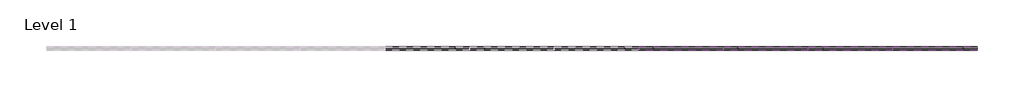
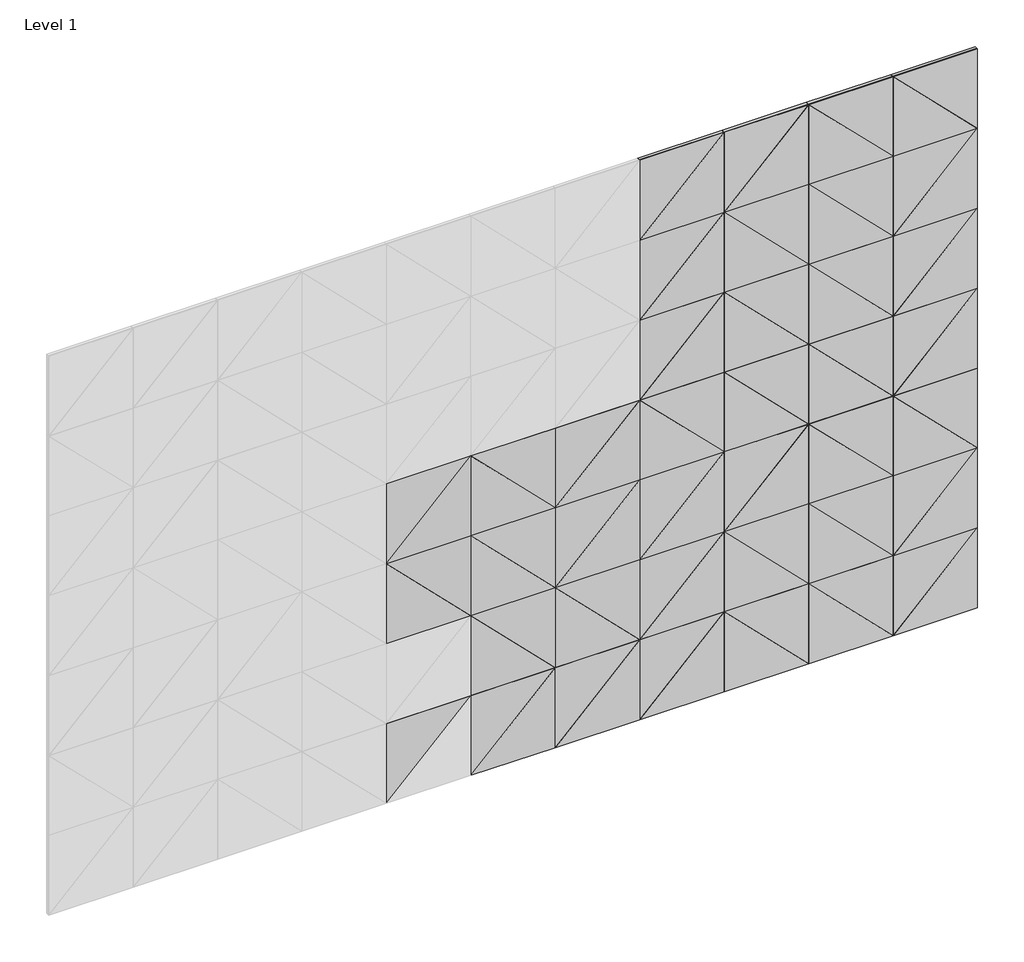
# One storey, part 2 of 2: 77 proxies.
"""IFC4 building model written with IfcOpenShell, lengths in millimetres."""

from ifc_helpers import new_model, si_unit, origin, place, context, project, spatial, transform, mapped, element, save
from components import triangle_90_block_a3482206

model = new_model("IFC4")

# Units and contexts
model_context = context("Model", 3, world=origin())
ifc_project = project(units=[si_unit("LENGTHUNIT", "METRE", prefix="MILLI")], contexts=[model_context])

# Site, building, storey
site = spatial("IfcSite", under=ifc_project)
building = spatial("IfcBuilding", under=site)
storey = spatial("IfcBuildingStorey", under=building, Name="Level 1", Elevation=0.0)

# Proxies
placement = place(None, origin())
triangle_90_block_shape = triangle_90_block_a3482206(model_context)
element("IfcBuildingElementProxy", 1, Name="FilzFelt_Triangle_90_Block : Triangle 90 Block", ObjectType="FilzFelt_Triangle_90_Block : Triangle 90 Block", at=placement, inside=storey, context=model_context, shape_type="MappedRepresentation", body=[
    mapped(triangle_90_block_shape, transform((40163.2097905, -10378.7647205, 2014.1), x_axis=(0.0, 0.0, -1.0), y_axis=(1.0, 0.0, 0.0), z_axis=(0.0, -1.0, 0.0))),
])
element("IfcBuildingElementProxy", 2, Name="FilzFelt_Triangle_90_Block : Triangle 90 Block", ObjectType="FilzFelt_Triangle_90_Block : Triangle 90 Block", at=placement, inside=storey, context=model_context, shape_type="MappedRepresentation", body=[
    mapped(triangle_90_block_shape, transform((40773.2097905, -10378.7647205, 2014.1), x_axis=(1.0, 0.0, 0.0), y_axis=(0.0, 0.0, 1.0), z_axis=(0.0, -1.0, 0.0))),
])
element("IfcBuildingElementProxy", 3, Name="FilzFelt_Triangle_90_Block : Triangle 90 Block", ObjectType="FilzFelt_Triangle_90_Block : Triangle 90 Block", at=placement, inside=storey, context=model_context, shape_type="MappedRepresentation", body=[
    mapped(triangle_90_block_shape, transform((41078.2097905, -10378.7647205, 2014.1), x_axis=(-1.0, 0.0, 0.0), y_axis=(0.0, 0.0, -1.0), z_axis=(0.0, -1.0, 0.0))),
])
element("IfcBuildingElementProxy", 4, Name="FilzFelt_Triangle_90_Block : Triangle 90 Block", ObjectType="FilzFelt_Triangle_90_Block : Triangle 90 Block", at=placement, inside=storey, context=model_context, shape_type="MappedRepresentation", body=[
    mapped(triangle_90_block_shape, transform((40468.2097905, -10378.7647205, 2014.1), x_axis=(0.0, 0.0, 1.0), y_axis=(-1.0, 0.0, 0.0), z_axis=(0.0, -1.0, 0.0))),
])
element("IfcBuildingElementProxy", 5, Name="FilzFelt_Triangle_90_Block : Triangle 90 Block", ObjectType="FilzFelt_Triangle_90_Block : Triangle 90 Block", at=placement, inside=storey, context=model_context, shape_type="MappedRepresentation", body=[
    mapped(triangle_90_block_shape, transform((40163.2097905, -10378.7647205, 1709.1), x_axis=(0.0, 0.0, -1.0), y_axis=(1.0, 0.0, 0.0), z_axis=(0.0, -1.0, 0.0))),
])
element("IfcBuildingElementProxy", 6, Name="FilzFelt_Triangle_90_Block : Triangle 90 Block", ObjectType="FilzFelt_Triangle_90_Block : Triangle 90 Block", at=placement, inside=storey, context=model_context, shape_type="MappedRepresentation", body=[
    mapped(triangle_90_block_shape, transform((40468.2097905, -10378.7647205, 1709.1), x_axis=(-1.0, 0.0, 0.0), y_axis=(0.0, 0.0, -1.0), z_axis=(0.0, -1.0, 0.0))),
])
element("IfcBuildingElementProxy", 7, Name="FilzFelt_Triangle_90_Block : Triangle 90 Block", ObjectType="FilzFelt_Triangle_90_Block : Triangle 90 Block", at=placement, inside=storey, context=model_context, shape_type="MappedRepresentation", body=[
    mapped(triangle_90_block_shape, transform((40773.2097905, -10378.7647205, 1709.1), x_axis=(1.0, 0.0, 0.0), y_axis=(0.0, 0.0, 1.0), z_axis=(0.0, -1.0, 0.0))),
])
element("IfcBuildingElementProxy", 8, Name="FilzFelt_Triangle_90_Block : Triangle 90 Block", ObjectType="FilzFelt_Triangle_90_Block : Triangle 90 Block", at=placement, inside=storey, context=model_context, shape_type="MappedRepresentation", body=[
    mapped(triangle_90_block_shape, transform((41078.2097905, -10378.7647205, 1709.1), x_axis=(0.0, 0.0, -1.0), y_axis=(1.0, 0.0, 0.0), z_axis=(0.0, -1.0, 0.0))),
])
element("IfcBuildingElementProxy", 9, Name="FilzFelt_Triangle_90_Block : Triangle 90 Block", ObjectType="FilzFelt_Triangle_90_Block : Triangle 90 Block", at=placement, inside=storey, context=model_context, shape_type="MappedRepresentation", body=[
    mapped(triangle_90_block_shape, transform((40163.2097905, -10378.7647205, 1404.1), x_axis=(0.0, 0.0, 1.0), y_axis=(-1.0, 0.0, 0.0), z_axis=(0.0, -1.0, 0.0))),
])
element("IfcBuildingElementProxy", 10, Name="FilzFelt_Triangle_90_Block : Triangle 90 Block", ObjectType="FilzFelt_Triangle_90_Block : Triangle 90 Block", at=placement, inside=storey, context=model_context, shape_type="MappedRepresentation", body=[
    mapped(triangle_90_block_shape, transform((40468.2097905, -10378.7647205, 1404.1), x_axis=(-1.0, 0.0, 0.0), y_axis=(0.0, 0.0, -1.0), z_axis=(0.0, -1.0, 0.0))),
])
element("IfcBuildingElementProxy", 11, Name="FilzFelt_Triangle_90_Block : Triangle 90 Block", ObjectType="FilzFelt_Triangle_90_Block : Triangle 90 Block", at=placement, inside=storey, context=model_context, shape_type="MappedRepresentation", body=[
    mapped(triangle_90_block_shape, transform((40773.2097905, -10378.7647205, 1404.1), x_axis=(-1.0, 0.0, 0.0), y_axis=(0.0, 0.0, -1.0), z_axis=(0.0, -1.0, 0.0))),
])
element("IfcBuildingElementProxy", 12, Name="FilzFelt_Triangle_90_Block : Triangle 90 Block", ObjectType="FilzFelt_Triangle_90_Block : Triangle 90 Block", at=placement, inside=storey, context=model_context, shape_type="MappedRepresentation", body=[
    mapped(triangle_90_block_shape, transform((41078.2097905, -10378.7647205, 1404.1), x_axis=(0.0, 0.0, 1.0), y_axis=(-1.0, 0.0, 0.0), z_axis=(0.0, -1.0, 0.0))),
])
element("IfcBuildingElementProxy", 13, Name="FilzFelt_Triangle_90_Block : Triangle 90 Block", ObjectType="FilzFelt_Triangle_90_Block : Triangle 90 Block", at=placement, inside=storey, context=model_context, shape_type="MappedRepresentation", body=[
    mapped(triangle_90_block_shape, transform((41078.2097905, -10378.7647205, 1099.1), x_axis=(0.0, 0.0, 1.0), y_axis=(-1.0, 0.0, 0.0), z_axis=(0.0, -1.0, 0.0))),
])
element("IfcBuildingElementProxy", 14, Name="FilzFelt_Triangle_90_Block : Triangle 90 Block", ObjectType="FilzFelt_Triangle_90_Block : Triangle 90 Block", at=placement, inside=storey, context=model_context, shape_type="MappedRepresentation", body=[
    mapped(triangle_90_block_shape, transform((41078.2097905, -10378.7647205, 794.1), x_axis=(-1.0, 0.0, 0.0), y_axis=(0.0, 0.0, -1.0), z_axis=(0.0, -1.0, 0.0))),
])
element("IfcBuildingElementProxy", 15, Name="FilzFelt_Triangle_90_Block : Triangle 90 Block", ObjectType="FilzFelt_Triangle_90_Block : Triangle 90 Block", at=placement, inside=storey, context=model_context, shape_type="MappedRepresentation", body=[
    mapped(triangle_90_block_shape, transform((41078.2097905, -10378.7647205, 489.1), x_axis=(0.0, 0.0, -1.0), y_axis=(1.0, 0.0, 0.0), z_axis=(0.0, -1.0, 0.0))),
])
element("IfcBuildingElementProxy", 16, Name="FilzFelt_Triangle_90_Block : Triangle 90 Block", ObjectType="FilzFelt_Triangle_90_Block : Triangle 90 Block", at=placement, inside=storey, context=model_context, shape_type="MappedRepresentation", body=[
    mapped(triangle_90_block_shape, transform((41078.2097905, -10378.7647205, 184.1), x_axis=(0.0, 0.0, 1.0), y_axis=(-1.0, 0.0, 0.0), z_axis=(0.0, -1.0, 0.0))),
])
element("IfcBuildingElementProxy", 17, Name="FilzFelt_Triangle_90_Block : Triangle 90 Block", ObjectType="FilzFelt_Triangle_90_Block : Triangle 90 Block", at=placement, inside=storey, context=model_context, shape_type="MappedRepresentation", body=[
    mapped(triangle_90_block_shape, transform((40773.2097905, -10378.7647205, 184.1), x_axis=(-1.0, 0.0, 0.0), y_axis=(0.0, 0.0, -1.0), z_axis=(0.0, -1.0, 0.0))),
])
element("IfcBuildingElementProxy", 18, Name="FilzFelt_Triangle_90_Block : Triangle 90 Block", ObjectType="FilzFelt_Triangle_90_Block : Triangle 90 Block", at=placement, inside=storey, context=model_context, shape_type="MappedRepresentation", body=[
    mapped(triangle_90_block_shape, transform((40773.2097905, -10378.7647205, 489.1), x_axis=(1.0, 0.0, 0.0), y_axis=(0.0, 0.0, 1.0), z_axis=(0.0, -1.0, 0.0))),
])
element("IfcBuildingElementProxy", 19, Name="FilzFelt_Triangle_90_Block : Triangle 90 Block", ObjectType="FilzFelt_Triangle_90_Block : Triangle 90 Block", at=placement, inside=storey, context=model_context, shape_type="MappedRepresentation", body=[
    mapped(triangle_90_block_shape, transform((40773.2097905, -10378.7647205, 794.1), x_axis=(1.0, 0.0, 0.0), y_axis=(0.0, 0.0, 1.0), z_axis=(0.0, -1.0, 0.0))),
])
element("IfcBuildingElementProxy", 20, Name="FilzFelt_Triangle_90_Block : Triangle 90 Block", ObjectType="FilzFelt_Triangle_90_Block : Triangle 90 Block", at=placement, inside=storey, context=model_context, shape_type="MappedRepresentation", body=[
    mapped(triangle_90_block_shape, transform((40773.2097905, -10378.7647205, 1099.1), x_axis=(-1.0, 0.0, 0.0), y_axis=(0.0, 0.0, -1.0), z_axis=(0.0, -1.0, 0.0))),
])
element("IfcBuildingElementProxy", 21, Name="FilzFelt_Triangle_90_Block : Triangle 90 Block", ObjectType="FilzFelt_Triangle_90_Block : Triangle 90 Block", at=placement, inside=storey, context=model_context, shape_type="MappedRepresentation", body=[
    mapped(triangle_90_block_shape, transform((40468.2097905, -10378.7647205, 184.1), x_axis=(-1.0, 0.0, 0.0), y_axis=(0.0, 0.0, -1.0), z_axis=(0.0, -1.0, 0.0))),
])
element("IfcBuildingElementProxy", 22, Name="FilzFelt_Triangle_90_Block : Triangle 90 Block", ObjectType="FilzFelt_Triangle_90_Block : Triangle 90 Block", at=placement, inside=storey, context=model_context, shape_type="MappedRepresentation", body=[
    mapped(triangle_90_block_shape, transform((40468.2097905, -10378.7647205, 489.1), x_axis=(-1.0, 0.0, 0.0), y_axis=(0.0, 0.0, -1.0), z_axis=(0.0, -1.0, 0.0))),
])
element("IfcBuildingElementProxy", 23, Name="FilzFelt_Triangle_90_Block : Triangle 90 Block", ObjectType="FilzFelt_Triangle_90_Block : Triangle 90 Block", at=placement, inside=storey, context=model_context, shape_type="MappedRepresentation", body=[
    mapped(triangle_90_block_shape, transform((40468.2097905, -10378.7647205, 794.1), x_axis=(0.0, 0.0, 1.0), y_axis=(-1.0, 0.0, 0.0), z_axis=(0.0, -1.0, 0.0))),
])
element("IfcBuildingElementProxy", 24, Name="FilzFelt_Triangle_90_Block : Triangle 90 Block", ObjectType="FilzFelt_Triangle_90_Block : Triangle 90 Block", at=placement, inside=storey, context=model_context, shape_type="MappedRepresentation", body=[
    mapped(triangle_90_block_shape, transform((40468.2097905, -10378.7647205, 1099.1), x_axis=(-1.0, 0.0, 0.0), y_axis=(0.0, 0.0, -1.0), z_axis=(0.0, -1.0, 0.0))),
])
element("IfcBuildingElementProxy", 25, Name="FilzFelt_Triangle_90_Block : Triangle 90 Block", ObjectType="FilzFelt_Triangle_90_Block : Triangle 90 Block", at=placement, inside=storey, context=model_context, shape_type="MappedRepresentation", body=[
    mapped(triangle_90_block_shape, transform((40163.2097905, -10378.7647205, 1099.1), x_axis=(1.0, 0.0, 0.0), y_axis=(0.0, 0.0, 1.0), z_axis=(0.0, -1.0, 0.0))),
])
element("IfcBuildingElementProxy", 26, Name="FilzFelt_Triangle_90_Block : Triangle 90 Block", ObjectType="FilzFelt_Triangle_90_Block : Triangle 90 Block", at=placement, inside=storey, context=model_context, shape_type="MappedRepresentation", body=[
    mapped(triangle_90_block_shape, transform((40163.2097905, -10378.7647205, 794.1), x_axis=(0.0, 0.0, -1.0), y_axis=(1.0, 0.0, 0.0), z_axis=(0.0, -1.0, 0.0))),
])
element("IfcBuildingElementProxy", 27, Name="FilzFelt_Triangle_90_Block : Triangle 90 Block", ObjectType="FilzFelt_Triangle_90_Block : Triangle 90 Block", at=placement, inside=storey, context=model_context, shape_type="MappedRepresentation", body=[
    mapped(triangle_90_block_shape, transform((40163.2097905, -10378.7647205, 489.1), x_axis=(0.0, 0.0, -1.0), y_axis=(1.0, 0.0, 0.0), z_axis=(0.0, -1.0, 0.0))),
])
element("IfcBuildingElementProxy", 28, Name="FilzFelt_Triangle_90_Block : Triangle 90 Block", ObjectType="FilzFelt_Triangle_90_Block : Triangle 90 Block", at=placement, inside=storey, context=model_context, shape_type="MappedRepresentation", body=[
    mapped(triangle_90_block_shape, transform((40163.2097905, -10378.7647205, 184.1), x_axis=(0.0, 0.0, 1.0), y_axis=(-1.0, 0.0, 0.0), z_axis=(0.0, -1.0, 0.0))),
])
element("IfcBuildingElementProxy", 29, Name="FilzFelt_Triangle_90_Block : Triangle 90 Block", ObjectType="FilzFelt_Triangle_90_Block : Triangle 90 Block", at=placement, inside=storey, context=model_context, shape_type="MappedRepresentation", body=[
    mapped(triangle_90_block_shape, transform((39248.2097905, -10378.7647205, 1099.1), x_axis=(0.0, 0.0, 1.0), y_axis=(-1.0, 0.0, 0.0), z_axis=(0.0, -1.0, 0.0))),
])
element("IfcBuildingElementProxy", 30, Name="FilzFelt_Triangle_90_Block : Triangle 90 Block", ObjectType="FilzFelt_Triangle_90_Block : Triangle 90 Block", at=placement, inside=storey, context=model_context, shape_type="MappedRepresentation", body=[
    mapped(triangle_90_block_shape, transform((39248.2097905, -10378.7647205, 794.1), x_axis=(-1.0, 0.0, 0.0), y_axis=(0.0, 0.0, -1.0), z_axis=(0.0, -1.0, 0.0))),
])
element("IfcBuildingElementProxy", 31, Name="FilzFelt_Triangle_90_Block : Triangle 90 Block", ObjectType="FilzFelt_Triangle_90_Block : Triangle 90 Block", at=placement, inside=storey, context=model_context, shape_type="MappedRepresentation", body=[
    mapped(triangle_90_block_shape, transform((39858.2097905, -10378.7647205, 184.1), x_axis=(0.0, 0.0, -1.0), y_axis=(1.0, 0.0, 0.0), z_axis=(0.0, -1.0, 0.0))),
])
element("IfcBuildingElementProxy", 32, Name="FilzFelt_Triangle_90_Block : Triangle 90 Block", ObjectType="FilzFelt_Triangle_90_Block : Triangle 90 Block", at=placement, inside=storey, context=model_context, shape_type="MappedRepresentation", body=[
    mapped(triangle_90_block_shape, transform((39553.2097905, -10378.7647205, 184.1), x_axis=(0.0, 0.0, 1.0), y_axis=(-1.0, 0.0, 0.0), z_axis=(0.0, -1.0, 0.0))),
])
element("IfcBuildingElementProxy", 33, Name="FilzFelt_Triangle_90_Block : Triangle 90 Block", ObjectType="FilzFelt_Triangle_90_Block : Triangle 90 Block", at=placement, inside=storey, context=model_context, shape_type="MappedRepresentation", body=[
    mapped(triangle_90_block_shape, transform((39553.2097905, -10378.7647205, 489.1), x_axis=(-1.0, 0.0, 0.0), y_axis=(0.0, 0.0, -1.0), z_axis=(0.0, -1.0, 0.0))),
])
element("IfcBuildingElementProxy", 34, Name="FilzFelt_Triangle_90_Block : Triangle 90 Block", ObjectType="FilzFelt_Triangle_90_Block : Triangle 90 Block", at=placement, inside=storey, context=model_context, shape_type="MappedRepresentation", body=[
    mapped(triangle_90_block_shape, transform((39858.2097905, -10378.7647205, 489.1), x_axis=(-1.0, 0.0, 0.0), y_axis=(0.0, 0.0, -1.0), z_axis=(0.0, -1.0, 0.0))),
])
element("IfcBuildingElementProxy", 35, Name="FilzFelt_Triangle_90_Block : Triangle 90 Block", ObjectType="FilzFelt_Triangle_90_Block : Triangle 90 Block", at=placement, inside=storey, context=model_context, shape_type="MappedRepresentation", body=[
    mapped(triangle_90_block_shape, transform((39553.2097905, -10378.7647205, 794.1), x_axis=(-1.0, 0.0, 0.0), y_axis=(0.0, 0.0, -1.0), z_axis=(0.0, -1.0, 0.0))),
])
element("IfcBuildingElementProxy", 36, Name="FilzFelt_Triangle_90_Block : Triangle 90 Block", ObjectType="FilzFelt_Triangle_90_Block : Triangle 90 Block", at=placement, inside=storey, context=model_context, shape_type="MappedRepresentation", body=[
    mapped(triangle_90_block_shape, transform((39553.2097905, -10378.7647205, 1099.1), x_axis=(1.0, 0.0, 0.0), y_axis=(0.0, 0.0, 1.0), z_axis=(0.0, -1.0, 0.0))),
])
element("IfcBuildingElementProxy", 37, Name="FilzFelt_Triangle_90_Block : Triangle 90 Block", ObjectType="FilzFelt_Triangle_90_Block : Triangle 90 Block", at=placement, inside=storey, context=model_context, shape_type="MappedRepresentation", body=[
    mapped(triangle_90_block_shape, transform((39858.2097905, -10378.7647205, 1099.1), x_axis=(0.0, 0.0, -1.0), y_axis=(1.0, 0.0, 0.0), z_axis=(0.0, -1.0, 0.0))),
])
element("IfcBuildingElementProxy", 38, Name="FilzFelt_Triangle_90_Block : Triangle 90 Block", ObjectType="FilzFelt_Triangle_90_Block : Triangle 90 Block", at=placement, inside=storey, context=model_context, shape_type="MappedRepresentation", body=[
    mapped(triangle_90_block_shape, transform((39858.2097905, -10378.7647205, 794.1), x_axis=(0.0, 0.0, -1.0), y_axis=(1.0, 0.0, 0.0), z_axis=(0.0, -1.0, 0.0))),
])
element("IfcBuildingElementProxy", 39, Name="FilzFelt_Triangle_90_Block : Triangle 90 Block", ObjectType="FilzFelt_Triangle_90_Block : Triangle 90 Block", at=placement, inside=storey, context=model_context, shape_type="MappedRepresentation", body=[
    mapped(triangle_90_block_shape, transform((40163.2097905, -10378.7647205, 2014.1), x_axis=(0.0, 0.0, 1.0), y_axis=(-1.0, 0.0, 0.0), z_axis=(0.0, -1.0, 0.0))),
])
element("IfcBuildingElementProxy", 40, Name="FilzFelt_Triangle_90_Block : Triangle 90 Block", ObjectType="FilzFelt_Triangle_90_Block : Triangle 90 Block", at=placement, inside=storey, context=model_context, shape_type="MappedRepresentation", body=[
    mapped(triangle_90_block_shape, transform((40773.2097905, -10378.7647205, 2014.1), x_axis=(-1.0, 0.0, 0.0), y_axis=(0.0, 0.0, -1.0), z_axis=(0.0, -1.0, 0.0))),
])
element("IfcBuildingElementProxy", 41, Name="FilzFelt_Triangle_90_Block : Triangle 90 Block", ObjectType="FilzFelt_Triangle_90_Block : Triangle 90 Block", at=placement, inside=storey, context=model_context, shape_type="MappedRepresentation", body=[
    mapped(triangle_90_block_shape, transform((41078.2097905, -10378.7647205, 2014.1), x_axis=(1.0, 0.0, 0.0), y_axis=(0.0, 0.0, 1.0), z_axis=(0.0, -1.0, 0.0))),
])
element("IfcBuildingElementProxy", 42, Name="FilzFelt_Triangle_90_Block : Triangle 90 Block", ObjectType="FilzFelt_Triangle_90_Block : Triangle 90 Block", at=placement, inside=storey, context=model_context, shape_type="MappedRepresentation", body=[
    mapped(triangle_90_block_shape, transform((40468.2097905, -10378.7647205, 2014.1), x_axis=(0.0, 0.0, -1.0), y_axis=(1.0, 0.0, 0.0), z_axis=(0.0, -1.0, 0.0))),
])
element("IfcBuildingElementProxy", 43, Name="FilzFelt_Triangle_90_Block : Triangle 90 Block", ObjectType="FilzFelt_Triangle_90_Block : Triangle 90 Block", at=placement, inside=storey, context=model_context, shape_type="MappedRepresentation", body=[
    mapped(triangle_90_block_shape, transform((40163.2097905, -10378.7647205, 1709.1), x_axis=(0.0, 0.0, 1.0), y_axis=(-1.0, 0.0, 0.0), z_axis=(0.0, -1.0, 0.0))),
])
element("IfcBuildingElementProxy", 44, Name="FilzFelt_Triangle_90_Block : Triangle 90 Block", ObjectType="FilzFelt_Triangle_90_Block : Triangle 90 Block", at=placement, inside=storey, context=model_context, shape_type="MappedRepresentation", body=[
    mapped(triangle_90_block_shape, transform((40468.2097905, -10378.7647205, 1709.1), x_axis=(1.0, 0.0, 0.0), y_axis=(0.0, 0.0, 1.0), z_axis=(0.0, -1.0, 0.0))),
])
element("IfcBuildingElementProxy", 45, Name="FilzFelt_Triangle_90_Block : Triangle 90 Block", ObjectType="FilzFelt_Triangle_90_Block : Triangle 90 Block", at=placement, inside=storey, context=model_context, shape_type="MappedRepresentation", body=[
    mapped(triangle_90_block_shape, transform((40773.2097905, -10378.7647205, 1709.1), x_axis=(-1.0, 0.0, 0.0), y_axis=(0.0, 0.0, -1.0), z_axis=(0.0, -1.0, 0.0))),
])
element("IfcBuildingElementProxy", 46, Name="FilzFelt_Triangle_90_Block : Triangle 90 Block", ObjectType="FilzFelt_Triangle_90_Block : Triangle 90 Block", at=placement, inside=storey, context=model_context, shape_type="MappedRepresentation", body=[
    mapped(triangle_90_block_shape, transform((41078.2097905, -10378.7647205, 1709.1), x_axis=(0.0, 0.0, 1.0), y_axis=(-1.0, 0.0, 0.0), z_axis=(0.0, -1.0, 0.0))),
])
element("IfcBuildingElementProxy", 47, Name="FilzFelt_Triangle_90_Block : Triangle 90 Block", ObjectType="FilzFelt_Triangle_90_Block : Triangle 90 Block", at=placement, inside=storey, context=model_context, shape_type="MappedRepresentation", body=[
    mapped(triangle_90_block_shape, transform((40163.2097905, -10378.7647205, 1404.1), x_axis=(0.0, 0.0, -1.0), y_axis=(1.0, 0.0, 0.0), z_axis=(0.0, -1.0, 0.0))),
])
element("IfcBuildingElementProxy", 48, Name="FilzFelt_Triangle_90_Block : Triangle 90 Block", ObjectType="FilzFelt_Triangle_90_Block : Triangle 90 Block", at=placement, inside=storey, context=model_context, shape_type="MappedRepresentation", body=[
    mapped(triangle_90_block_shape, transform((40468.2097905, -10378.7647205, 1404.1), x_axis=(1.0, 0.0, 0.0), y_axis=(0.0, 0.0, 1.0), z_axis=(0.0, -1.0, 0.0))),
])
element("IfcBuildingElementProxy", 49, Name="FilzFelt_Triangle_90_Block : Triangle 90 Block", ObjectType="FilzFelt_Triangle_90_Block : Triangle 90 Block", at=placement, inside=storey, context=model_context, shape_type="MappedRepresentation", body=[
    mapped(triangle_90_block_shape, transform((40773.2097905, -10378.7647205, 1404.1), x_axis=(1.0, 0.0, 0.0), y_axis=(0.0, 0.0, 1.0), z_axis=(0.0, -1.0, 0.0))),
])
element("IfcBuildingElementProxy", 50, Name="FilzFelt_Triangle_90_Block : Triangle 90 Block", ObjectType="FilzFelt_Triangle_90_Block : Triangle 90 Block", at=placement, inside=storey, context=model_context, shape_type="MappedRepresentation", body=[
    mapped(triangle_90_block_shape, transform((41078.2097905, -10378.7647205, 1404.1), x_axis=(0.0, 0.0, -1.0), y_axis=(1.0, 0.0, 0.0), z_axis=(0.0, -1.0, 0.0))),
])
element("IfcBuildingElementProxy", 51, Name="FilzFelt_Triangle_90_Block : Triangle 90 Block", ObjectType="FilzFelt_Triangle_90_Block : Triangle 90 Block", at=placement, inside=storey, context=model_context, shape_type="MappedRepresentation", body=[
    mapped(triangle_90_block_shape, transform((41078.2097905, -10378.7647205, 1099.1), x_axis=(0.0, 0.0, -1.0), y_axis=(1.0, 0.0, 0.0), z_axis=(0.0, -1.0, 0.0))),
])
element("IfcBuildingElementProxy", 52, Name="FilzFelt_Triangle_90_Block : Triangle 90 Block", ObjectType="FilzFelt_Triangle_90_Block : Triangle 90 Block", at=placement, inside=storey, context=model_context, shape_type="MappedRepresentation", body=[
    mapped(triangle_90_block_shape, transform((41078.2097905, -10378.7647205, 794.1), x_axis=(1.0, 0.0, 0.0), y_axis=(0.0, 0.0, 1.0), z_axis=(0.0, -1.0, 0.0))),
])
element("IfcBuildingElementProxy", 53, Name="FilzFelt_Triangle_90_Block : Triangle 90 Block", ObjectType="FilzFelt_Triangle_90_Block : Triangle 90 Block", at=placement, inside=storey, context=model_context, shape_type="MappedRepresentation", body=[
    mapped(triangle_90_block_shape, transform((41078.2097905, -10378.7647205, 489.1), x_axis=(0.0, 0.0, 1.0), y_axis=(-1.0, 0.0, 0.0), z_axis=(0.0, -1.0, 0.0))),
])
element("IfcBuildingElementProxy", 54, Name="FilzFelt_Triangle_90_Block : Triangle 90 Block", ObjectType="FilzFelt_Triangle_90_Block : Triangle 90 Block", at=placement, inside=storey, context=model_context, shape_type="MappedRepresentation", body=[
    mapped(triangle_90_block_shape, transform((41078.2097905, -10378.7647205, 184.1), x_axis=(0.0, 0.0, -1.0), y_axis=(1.0, 0.0, 0.0), z_axis=(0.0, -1.0, 0.0))),
])
element("IfcBuildingElementProxy", 55, Name="FilzFelt_Triangle_90_Block : Triangle 90 Block", ObjectType="FilzFelt_Triangle_90_Block : Triangle 90 Block", at=placement, inside=storey, context=model_context, shape_type="MappedRepresentation", body=[
    mapped(triangle_90_block_shape, transform((40773.2097905, -10378.7647205, 184.1), x_axis=(1.0, 0.0, 0.0), y_axis=(0.0, 0.0, 1.0), z_axis=(0.0, -1.0, 0.0))),
])
element("IfcBuildingElementProxy", 56, Name="FilzFelt_Triangle_90_Block : Triangle 90 Block", ObjectType="FilzFelt_Triangle_90_Block : Triangle 90 Block", at=placement, inside=storey, context=model_context, shape_type="MappedRepresentation", body=[
    mapped(triangle_90_block_shape, transform((40773.2097905, -10378.7647205, 489.1), x_axis=(-1.0, 0.0, 0.0), y_axis=(0.0, 0.0, -1.0), z_axis=(0.0, -1.0, 0.0))),
])
element("IfcBuildingElementProxy", 57, Name="FilzFelt_Triangle_90_Block : Triangle 90 Block", ObjectType="FilzFelt_Triangle_90_Block : Triangle 90 Block", at=placement, inside=storey, context=model_context, shape_type="MappedRepresentation", body=[
    mapped(triangle_90_block_shape, transform((40773.2097905, -10378.7647205, 794.1), x_axis=(-1.0, 0.0, 0.0), y_axis=(0.0, 0.0, -1.0), z_axis=(0.0, -1.0, 0.0))),
])
element("IfcBuildingElementProxy", 58, Name="FilzFelt_Triangle_90_Block : Triangle 90 Block", ObjectType="FilzFelt_Triangle_90_Block : Triangle 90 Block", at=placement, inside=storey, context=model_context, shape_type="MappedRepresentation", body=[
    mapped(triangle_90_block_shape, transform((40773.2097905, -10378.7647205, 1099.1), x_axis=(1.0, 0.0, 0.0), y_axis=(0.0, 0.0, 1.0), z_axis=(0.0, -1.0, 0.0))),
])
element("IfcBuildingElementProxy", 59, Name="FilzFelt_Triangle_90_Block : Triangle 90 Block", ObjectType="FilzFelt_Triangle_90_Block : Triangle 90 Block", at=placement, inside=storey, context=model_context, shape_type="MappedRepresentation", body=[
    mapped(triangle_90_block_shape, transform((40468.2097905, -10378.7647205, 184.1), x_axis=(1.0, 0.0, 0.0), y_axis=(0.0, 0.0, 1.0), z_axis=(0.0, -1.0, 0.0))),
])
element("IfcBuildingElementProxy", 60, Name="FilzFelt_Triangle_90_Block : Triangle 90 Block", ObjectType="FilzFelt_Triangle_90_Block : Triangle 90 Block", at=placement, inside=storey, context=model_context, shape_type="MappedRepresentation", body=[
    mapped(triangle_90_block_shape, transform((40468.2097905, -10378.7647205, 489.1), x_axis=(1.0, 0.0, 0.0), y_axis=(0.0, 0.0, 1.0), z_axis=(0.0, -1.0, 0.0))),
])
element("IfcBuildingElementProxy", 61, Name="FilzFelt_Triangle_90_Block : Triangle 90 Block", ObjectType="FilzFelt_Triangle_90_Block : Triangle 90 Block", at=placement, inside=storey, context=model_context, shape_type="MappedRepresentation", body=[
    mapped(triangle_90_block_shape, transform((40468.2097905, -10378.7647205, 794.1), x_axis=(0.0, 0.0, -1.0), y_axis=(1.0, 0.0, 0.0), z_axis=(0.0, -1.0, 0.0))),
])
element("IfcBuildingElementProxy", 62, Name="FilzFelt_Triangle_90_Block : Triangle 90 Block", ObjectType="FilzFelt_Triangle_90_Block : Triangle 90 Block", at=placement, inside=storey, context=model_context, shape_type="MappedRepresentation", body=[
    mapped(triangle_90_block_shape, transform((40468.2097905, -10378.7647205, 1099.1), x_axis=(1.0, 0.0, 0.0), y_axis=(0.0, 0.0, 1.0), z_axis=(0.0, -1.0, 0.0))),
])
element("IfcBuildingElementProxy", 63, Name="FilzFelt_Triangle_90_Block : Triangle 90 Block", ObjectType="FilzFelt_Triangle_90_Block : Triangle 90 Block", at=placement, inside=storey, context=model_context, shape_type="MappedRepresentation", body=[
    mapped(triangle_90_block_shape, transform((40163.2097905, -10378.7647205, 1099.1), x_axis=(-1.0, 0.0, 0.0), y_axis=(0.0, 0.0, -1.0), z_axis=(0.0, -1.0, 0.0))),
])
element("IfcBuildingElementProxy", 64, Name="FilzFelt_Triangle_90_Block : Triangle 90 Block", ObjectType="FilzFelt_Triangle_90_Block : Triangle 90 Block", at=placement, inside=storey, context=model_context, shape_type="MappedRepresentation", body=[
    mapped(triangle_90_block_shape, transform((40163.2097905, -10378.7647205, 794.1), x_axis=(0.0, 0.0, 1.0), y_axis=(-1.0, 0.0, 0.0), z_axis=(0.0, -1.0, 0.0))),
])
element("IfcBuildingElementProxy", 65, Name="FilzFelt_Triangle_90_Block : Triangle 90 Block", ObjectType="FilzFelt_Triangle_90_Block : Triangle 90 Block", at=placement, inside=storey, context=model_context, shape_type="MappedRepresentation", body=[
    mapped(triangle_90_block_shape, transform((40163.2097905, -10378.7647205, 489.1), x_axis=(0.0, 0.0, 1.0), y_axis=(-1.0, 0.0, 0.0), z_axis=(0.0, -1.0, 0.0))),
])
element("IfcBuildingElementProxy", 66, Name="FilzFelt_Triangle_90_Block : Triangle 90 Block", ObjectType="FilzFelt_Triangle_90_Block : Triangle 90 Block", at=placement, inside=storey, context=model_context, shape_type="MappedRepresentation", body=[
    mapped(triangle_90_block_shape, transform((40163.2097905, -10378.7647205, 184.1), x_axis=(0.0, 0.0, -1.0), y_axis=(1.0, 0.0, 0.0), z_axis=(0.0, -1.0, 0.0))),
])
element("IfcBuildingElementProxy", 67, Name="FilzFelt_Triangle_90_Block : Triangle 90 Block", ObjectType="FilzFelt_Triangle_90_Block : Triangle 90 Block", at=placement, inside=storey, context=model_context, shape_type="MappedRepresentation", body=[
    mapped(triangle_90_block_shape, transform((39248.2097905, -10378.7647205, 184.1), x_axis=(0.0, 0.0, -1.0), y_axis=(1.0, 0.0, 0.0), z_axis=(0.0, -1.0, 0.0))),
])
element("IfcBuildingElementProxy", 68, Name="FilzFelt_Triangle_90_Block : Triangle 90 Block", ObjectType="FilzFelt_Triangle_90_Block : Triangle 90 Block", at=placement, inside=storey, context=model_context, shape_type="MappedRepresentation", body=[
    mapped(triangle_90_block_shape, transform((39248.2097905, -10378.7647205, 1099.1), x_axis=(0.0, 0.0, -1.0), y_axis=(1.0, 0.0, 0.0), z_axis=(0.0, -1.0, 0.0))),
])
element("IfcBuildingElementProxy", 69, Name="FilzFelt_Triangle_90_Block : Triangle 90 Block", ObjectType="FilzFelt_Triangle_90_Block : Triangle 90 Block", at=placement, inside=storey, context=model_context, shape_type="MappedRepresentation", body=[
    mapped(triangle_90_block_shape, transform((39248.2097905, -10378.7647205, 794.1), x_axis=(1.0, 0.0, 0.0), y_axis=(0.0, 0.0, 1.0), z_axis=(0.0, -1.0, 0.0))),
])
element("IfcBuildingElementProxy", 70, Name="FilzFelt_Triangle_90_Block : Triangle 90 Block", ObjectType="FilzFelt_Triangle_90_Block : Triangle 90 Block", at=placement, inside=storey, context=model_context, shape_type="MappedRepresentation", body=[
    mapped(triangle_90_block_shape, transform((39858.2097905, -10378.7647205, 184.1), x_axis=(0.0, 0.0, 1.0), y_axis=(-1.0, 0.0, 0.0), z_axis=(0.0, -1.0, 0.0))),
])
element("IfcBuildingElementProxy", 71, Name="FilzFelt_Triangle_90_Block : Triangle 90 Block", ObjectType="FilzFelt_Triangle_90_Block : Triangle 90 Block", at=placement, inside=storey, context=model_context, shape_type="MappedRepresentation", body=[
    mapped(triangle_90_block_shape, transform((39553.2097905, -10378.7647205, 184.1), x_axis=(0.0, 0.0, -1.0), y_axis=(1.0, 0.0, 0.0), z_axis=(0.0, -1.0, 0.0))),
])
element("IfcBuildingElementProxy", 72, Name="FilzFelt_Triangle_90_Block : Triangle 90 Block", ObjectType="FilzFelt_Triangle_90_Block : Triangle 90 Block", at=placement, inside=storey, context=model_context, shape_type="MappedRepresentation", body=[
    mapped(triangle_90_block_shape, transform((39553.2097905, -10378.7647205, 489.1), x_axis=(1.0, 0.0, 0.0), y_axis=(0.0, 0.0, 1.0), z_axis=(0.0, -1.0, 0.0))),
])
element("IfcBuildingElementProxy", 73, Name="FilzFelt_Triangle_90_Block : Triangle 90 Block", ObjectType="FilzFelt_Triangle_90_Block : Triangle 90 Block", at=placement, inside=storey, context=model_context, shape_type="MappedRepresentation", body=[
    mapped(triangle_90_block_shape, transform((39858.2097905, -10378.7647205, 489.1), x_axis=(1.0, 0.0, 0.0), y_axis=(0.0, 0.0, 1.0), z_axis=(0.0, -1.0, 0.0))),
])
element("IfcBuildingElementProxy", 74, Name="FilzFelt_Triangle_90_Block : Triangle 90 Block", ObjectType="FilzFelt_Triangle_90_Block : Triangle 90 Block", at=placement, inside=storey, context=model_context, shape_type="MappedRepresentation", body=[
    mapped(triangle_90_block_shape, transform((39553.2097905, -10378.7647205, 794.1), x_axis=(1.0, 0.0, 0.0), y_axis=(0.0, 0.0, 1.0), z_axis=(0.0, -1.0, 0.0))),
])
element("IfcBuildingElementProxy", 75, Name="FilzFelt_Triangle_90_Block : Triangle 90 Block", ObjectType="FilzFelt_Triangle_90_Block : Triangle 90 Block", at=placement, inside=storey, context=model_context, shape_type="MappedRepresentation", body=[
    mapped(triangle_90_block_shape, transform((39553.2097905, -10378.7647205, 1099.1), x_axis=(-1.0, 0.0, 0.0), y_axis=(0.0, 0.0, -1.0), z_axis=(0.0, -1.0, 0.0))),
])
element("IfcBuildingElementProxy", 76, Name="FilzFelt_Triangle_90_Block : Triangle 90 Block", ObjectType="FilzFelt_Triangle_90_Block : Triangle 90 Block", at=placement, inside=storey, context=model_context, shape_type="MappedRepresentation", body=[
    mapped(triangle_90_block_shape, transform((39858.2097905, -10378.7647205, 1099.1), x_axis=(0.0, 0.0, 1.0), y_axis=(-1.0, 0.0, 0.0), z_axis=(0.0, -1.0, 0.0))),
])
element("IfcBuildingElementProxy", 77, Name="FilzFelt_Triangle_90_Block : Triangle 90 Block", ObjectType="FilzFelt_Triangle_90_Block : Triangle 90 Block", at=placement, inside=storey, context=model_context, shape_type="MappedRepresentation", body=[
    mapped(triangle_90_block_shape, transform((39858.2097905, -10378.7647205, 794.1), x_axis=(0.0, 0.0, 1.0), y_axis=(-1.0, 0.0, 0.0), z_axis=(0.0, -1.0, 0.0))),
])

save(model, "model.ifc")
